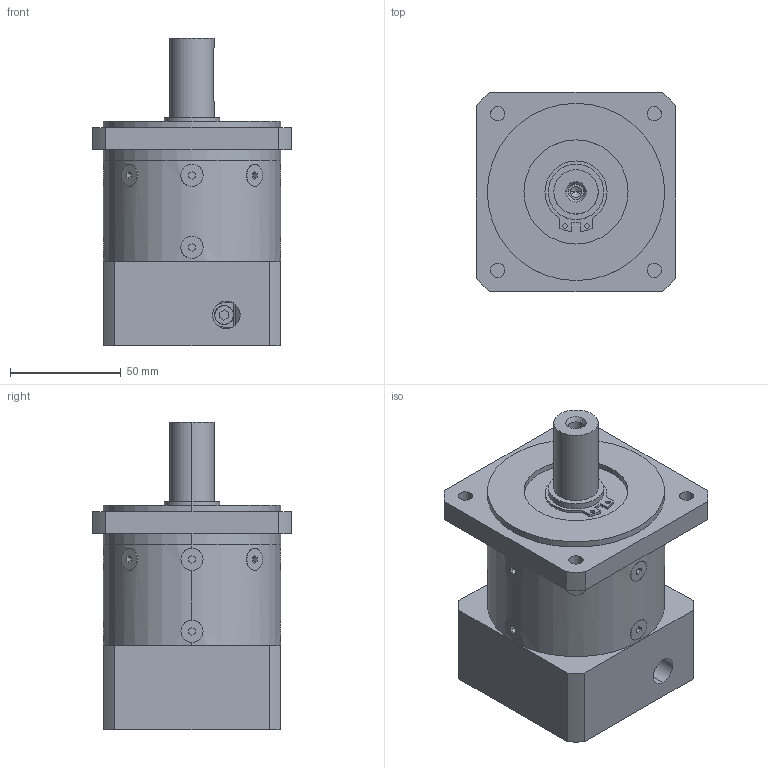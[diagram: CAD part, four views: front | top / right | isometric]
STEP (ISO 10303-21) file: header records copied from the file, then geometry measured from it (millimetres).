
FILE_DESCRIPTION (( 'STEP AP214' ), '1' );
FILE_NAME ('PLF-080-L1-S2-P2 19-70-90-M5.STEP', '2021-03-05T01:58:06', ( '微软用户' ), ( '微软中国' ), 'SwSTEP 2.0', 'SolidWorks 2014', '' );
FILE_SCHEMA (( 'AUTOMOTIVE_DESIGN' ));
Length unit declared in the file: millimetre
Products named in the file (13): 粣創-6006 30x55x13; 囀鞠褒蹟佪-M5℅20; PLF80 内齿圈-B版_一级内齿圈; PLFF80 薊粣ん_D7-19 梓袧; PLF80 蟀諉啣-梓袧; PLF-080-L1-S2-P2 19-70-90-M5; PLF80 奻屳唳
Assembly tree (6 placements, depth 2):
  粣創-6006 30x55x13
  囀鞠褒蹟佪-M5℅20
  PLF80 内齿圈-B版_一级内齿圈
  PLFF80 薊粣ん_D7-19 梓袧
  PLF80 蟀諉啣-梓袧
Bounding box: 90 x 90 x 139 mm (x, y, z)
Volume: 518769.8 mm3; surface area: 113571.5 mm2
Topology: 6 solids, 6 shells, 518 faces, 1459 edges, 939 vertices
Faces by surface type: plane 200, cylinder 169, bspline 125, cone 24
Entity records: 27818 total; most frequent: CARTESIAN_POINT 9431, ORIENTED_EDGE 2794, DIRECTION 2403, EDGE_CURVE 1397, AXIS2_PLACEMENT_3D 947, VERTEX_POINT 939, EDGE_LOOP 630, CIRCLE 544
